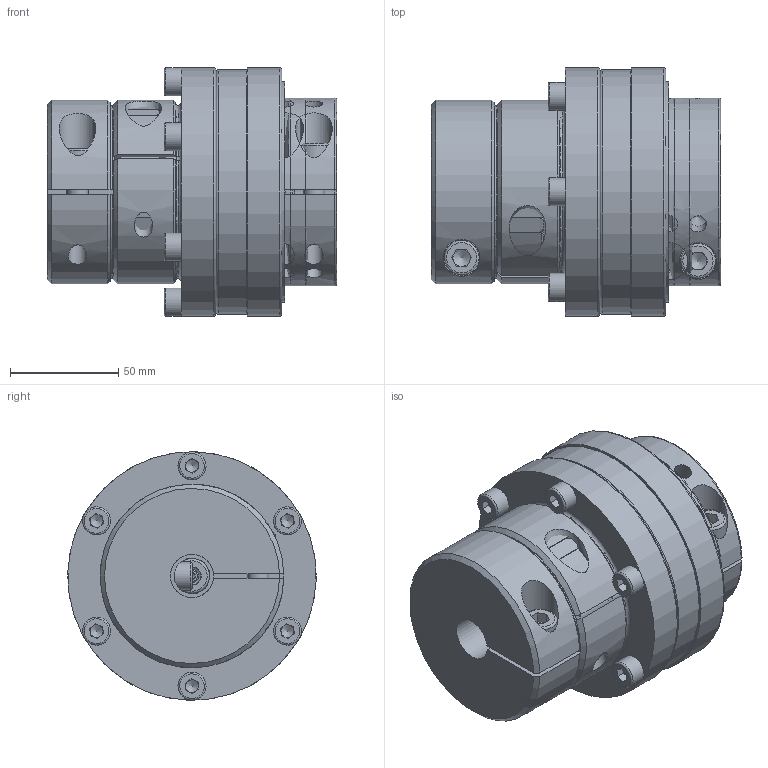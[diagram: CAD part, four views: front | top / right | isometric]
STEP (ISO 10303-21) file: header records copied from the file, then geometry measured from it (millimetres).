
FILE_DESCRIPTION( ( 'Unknown' ), '1' );
FILE_NAME( 'F:/JAKOB-STEP+IGES-Dateien/STEP-Dateien/SKB-EK/SKB-EK 230.stp', 'Unknown', ( 'Unknown' ), ( 'Unknown' ), 'XStep 1.0', 'Unknown', ' ' );
FILE_SCHEMA( ( 'CONFIG_CONTROL_DESIGN' ) );
Length unit declared in the file: millimetre
Products named in the file (10): Assem1; SKB 230; 23917282; KT102586; KT101950; KT102204; KT100090; Elastomerteil 4; kt100627
Bounding box: 133.9 x 115 x 115 mm (x, y, z)
Surface area: 486757.1 mm2
Topology: 28 solids, 28 shells, 1251 faces, 3471 edges, 2222 vertices
Faces by surface type: cylinder 426, plane 423, cone 206, torus 148, sphere 36, bspline 12
Full cylindrical faces by diameter (mm): 2.5 x6, 5 x3, 6 x19, 6.8 x18, 8 x16, 8.5 x5, 8.6 x12, 10 x4, 10.5 x5, 13 x7, 16 x4, 16.5 x2, 17 x5, 21 x3, 38 x4, 47.5 x3, 49 x2, 49.8 x3, 50 x6, 62 x3, 62.5 x6, 65 x3, 78.1 x6, 80 x2, 90 x8, 93.5 x3, 94 x3, 97.9 x3, 102 x3, 109 x3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
Entity records: 17038 total; most frequent: CARTESIAN_POINT 5309, DIRECTION 2362, ORIENTED_EDGE 2284, EDGE_CURVE 1142, AXIS2_PLACEMENT_3D 1024, VERTEX_POINT 781, EDGE_LOOP 640, CIRCLE 550
